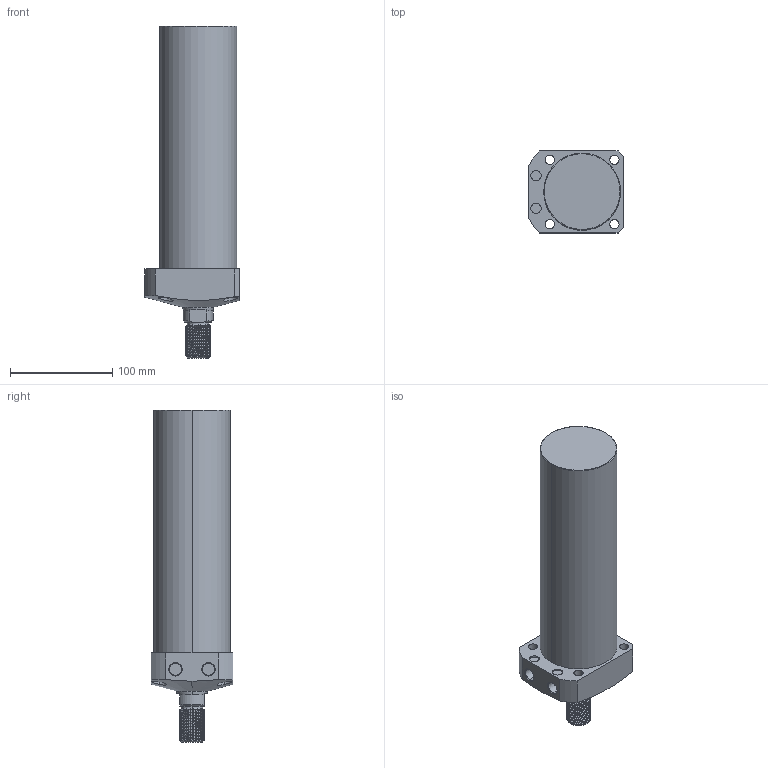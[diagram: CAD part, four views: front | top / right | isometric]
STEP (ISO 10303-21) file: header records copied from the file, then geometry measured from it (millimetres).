
FILE_DESCRIPTION (( 'STEP AP203' ), '1' );
FILE_NAME ('CLL-075CT-200.STEP', '2020-01-08T12:21:49', ( '' ), ( '' ), 'SwSTEP 2.0', 'SolidWorks 2015', '' );
FILE_SCHEMA (( 'CONFIG_CONTROL_DESIGN' ));
Length unit declared in the file: millimetre
Products named in the file (1): CLL-075CT-200
Bounding box: 92 x 80 x 324 mm (x, y, z)
Volume: 1288304.8 mm3; surface area: 90621.7 mm2
Topology: 1 solids, 1 shells, 121 faces, 310 edges, 202 vertices
Faces by surface type: cylinder 77, plane 23, cone 17, torus 2, bspline 2
Entity records: 6515 total; most frequent: CARTESIAN_POINT 3725, ORIENTED_EDGE 620, DIRECTION 517, EDGE_CURVE 310, AXIS2_PLACEMENT_3D 204, VERTEX_POINT 202, EDGE_LOOP 140, FACE_OUTER_BOUND 121
